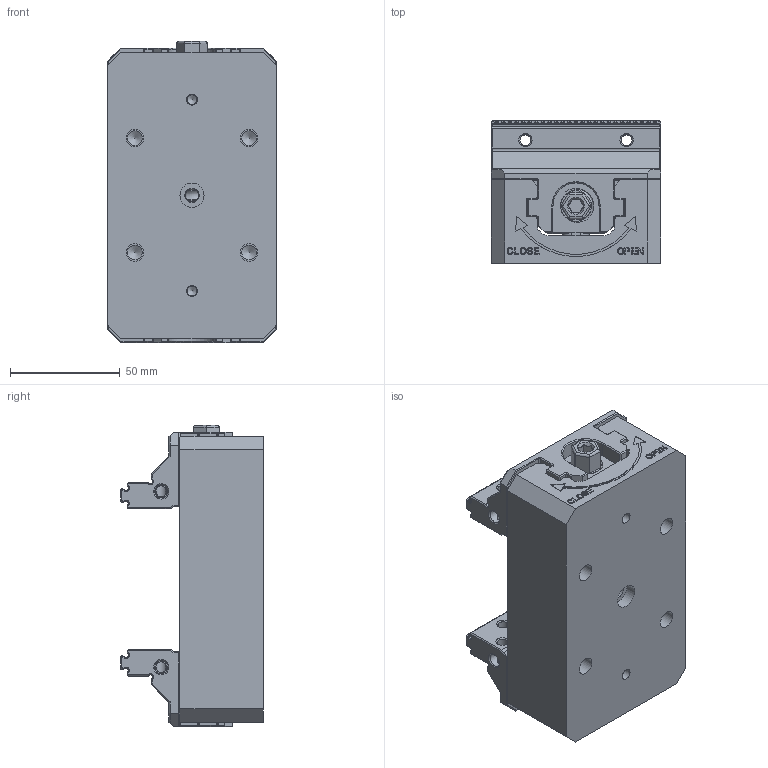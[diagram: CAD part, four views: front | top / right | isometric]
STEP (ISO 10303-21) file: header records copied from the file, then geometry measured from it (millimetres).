
FILE_DESCRIPTION(/* description */ (''),/* implementation_level */ '2;1');
FILE_NAME(/* name */ '',/* time_stamp */ '2019-12-31T10:46:16+08:00',/* author */ (''),/* organization */ (''),/* preprocessor_version */ 'ST-DEVELOPER v11',/* originating_system */ 'SIEMENS PLM Software NX 7.0',/* authorisation */ '');
FILE_SCHEMA (('CONFIG_CONTROL_DESIGN'));
Length unit declared in the file: millimetre
Products named in the file (1): Admi46A2bp9v
Bounding box: 77 x 65 x 137 mm (x, y, z)
Volume: 379780 mm3; surface area: 87637.8 mm2
Topology: 5 solids, 5 shells, 1185 faces, 3250 edges, 2100 vertices
Faces by surface type: plane 682, cylinder 364, cone 94, extrusion 18, bspline 16, torus 11
Full cylindrical faces by diameter (mm): 4.2 x8, 4.5 x2, 5 x24, 6 x5, 6.5 x1, 6.7 x4, 8 x4, 11 x1, 14 x2, 16 x2, 20 x2, 20.5 x1
Entity records: 43592 total; most frequent: CARTESIAN_POINT 14702, ORIENTED_EDGE 6086, DIRECTION 5644, EDGE_CURVE 3043, VERTEX_POINT 2033, VECTOR 1938, LINE 1920, AXIS2_PLACEMENT_3D 1853
